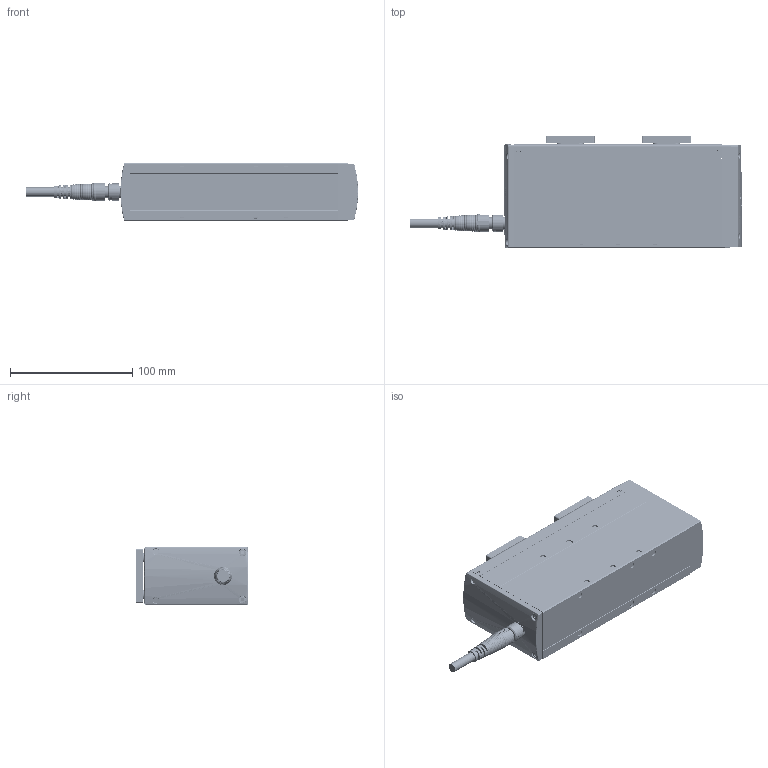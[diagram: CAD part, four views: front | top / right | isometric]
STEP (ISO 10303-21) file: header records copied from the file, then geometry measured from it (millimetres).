
FILE_DESCRIPTION(/* description */ ('STEP AP203'),/* implementation_level */ '2;1');
FILE_NAME(/* name */ 'D:\2025.02.25 帶電匯整給泊舟\3. CHS2系列\4.3D組立\CHS2B-S68-180.stp',/* time_stamp */ '2025-02-25T18:00:25+08:00',/* author */ ('T10033'),/* organization */ (''),/* preprocessor_version */ 'ST-DEVELOPER v18.1',/* originating_system */ 'Autodesk Inventor 2020',/* authorisation */ '');
FILE_SCHEMA (('CONFIG_CONTROL_DESIGN'));
Products named in the file (9): CHS2B-S68; 12003-000234-02; 12004-000155-02; 22012-000358_M512內六角; 22012-001390_M2.5L16內六角; 22012-000311_M3L6內六角; 慶陞M12金屬頭; M12-14PIN 線端180度接頭-05中繼線; 52 5TW3E4_Shrinkwrap_1
Assembly tree (20 placements, depth 2):
  CHS2B-S68
    12003-000234-02
    12004-000155-02  x2
    22012-000358_M512內六角  x8
    22012-001390_M2.5L16內六角  x4
    22012-000311_M3L6內六角  x2
    慶陞M12金屬頭
    M12-14PIN 線端180度接頭-05中繼線
    52 5TW3E4_Shrinkwrap_1
Bounding box: 271.37 x 92 x 48 mm (x, y, z)
Volume: 790186.7 mm3; surface area: 98790.3 mm2
Topology: 37 solids, 37 shells, 2896 faces, 8566 edges, 5882 vertices
Faces by surface type: plane 1162, cone 804, cylinder 677, bspline 174, torus 75, sphere 4
Full cylindrical faces by diameter (mm): 0.6 x14, 0.65 x14, 0.8 x2, 1 x14, 1.5 x1, 1.6 x2, 2 x2, 2.05 x2, 2.5 x137, 3 x20, 3.5 x4, 3.8 x4, 4.2 x8, 4.5 x4, 5 x127, 5.2 x8, 5.5 x2, 7.5 x1, 8 x1, 8.5 x8, 8.9 x1, 9 x8, 9.5 x2, 9.6 x1, 10.5 x2, 11 x1, 11.2 x5, 12 x1, 12.5 x1, 13 x1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
Entity records: 84815 total; most frequent: CARTESIAN_POINT 29042, DIRECTION 11512, ORIENTED_EDGE 11406, EDGE_CURVE 5703, AXIS2_PLACEMENT_3D 4444, VERTEX_POINT 3855, LINE 2624, VECTOR 2624
